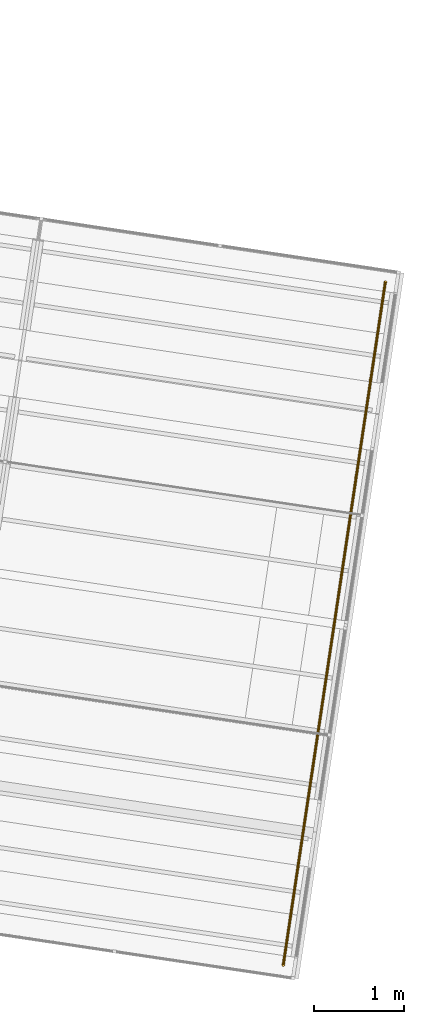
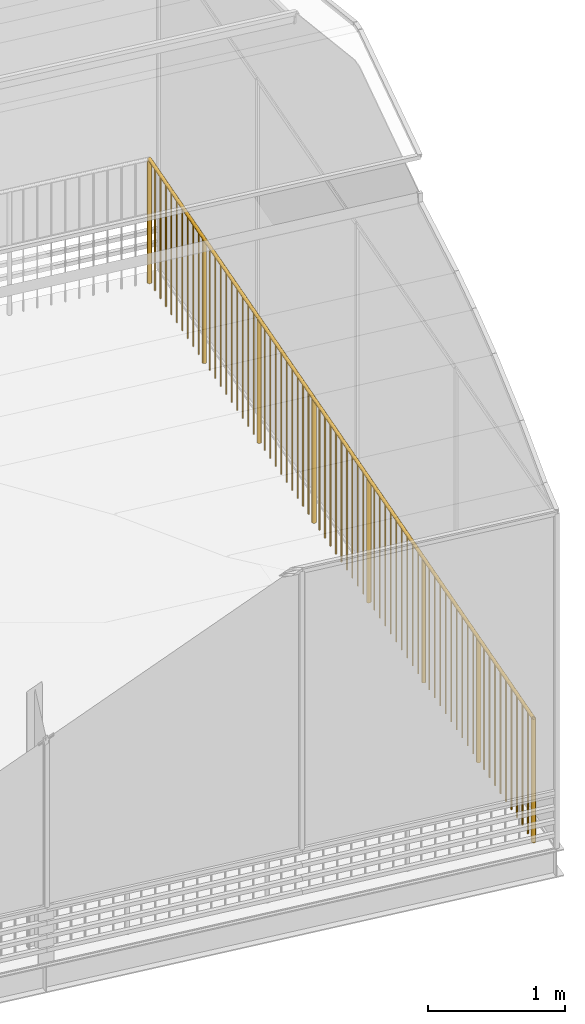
# One storey, part 33 of 34: 1 railing.
"""IFC4 building model written with IfcOpenShell, lengths in metres."""

from ifc_helpers import new_model, si_unit, direction, frame, origin_with_axes, place, context, subcontext, project, spatial, circle, extrude, material, element, save


model = new_model("IFC4")

# Units and contexts
model_context = context("Model", 3, precision=1e-05, world=origin_with_axes(), true_north=direction((0.0, 1.0)))
body_context = subcontext(model_context, "Body", "Model", "MODEL_VIEW")
ifc_project = project(units=[si_unit("AREAUNIT", "SQUARE_METRE"), si_unit("VOLUMEUNIT", "CUBIC_METRE"), si_unit("LENGTHUNIT", "METRE")], contexts=[model_context])

# Site, building, storey
site_placement = place(None, origin_with_axes())
site = spatial("IfcSite", under=ifc_project, at=site_placement, Name="Lares · Rua das Mercês · artigo 4771")
building_placement = place(site_placement, frame((15.0, 9.7, 14.65), z_axis=(0.0, 0.0, 1.0), x_axis=(0.989015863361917, -0.147809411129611, 0.0)))
building = spatial("IfcBuilding", under=site, at=building_placement, Name="Casa Sobreposta")
storey_placement = place(building_placement, frame((0.0, 0.0, 3.24), z_axis=(0.0, 0.0, 1.0), x_axis=(1.0, 0.0, 0.0)))
storey = spatial("IfcBuildingStorey", under=building, at=storey_placement, Name="01 · Jardim de inverno", Elevation=17.89)

# Railing
ifc_material = material(Name="Aço pintado / Stahl lackiert", Category="steel")
railing_placement = place(storey_placement, frame((0.0, 0.0, -3.24), z_axis=(0.0, 0.0, 1.0), x_axis=(1.0, 0.0, 0.0)))
element("IfcRailing", 1, at=railing_placement, inside=storey, material=ifc_material, Name="Guarda perimetral da estufa", PredefinedType="GUARDRAIL", context=body_context, shape_type="SweptSolid", body=[
    extrude(circle(Radius=0.015), frame((31.87, -1.37, 4.34), z_axis=(0.0, 1.0, 0.0), x_axis=(1.0, 0.0, 0.0)), (0.0, 0.0, 1.0), 7.64),
    extrude(circle(Radius=0.0175), frame((31.87, -1.37, 3.24), z_axis=(0.0, 0.0, 1.0), x_axis=(1.0, 0.0, 0.0)), (0.0, 0.0, 1.0), 1.1),
    extrude(circle(Radius=0.006), frame((31.87, -1.26085714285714, 3.24), z_axis=(0.0, 0.0, 1.0), x_axis=(1.0, 0.0, 0.0)), (0.0, 0.0, 1.0), 1.1),
    extrude(circle(Radius=0.006), frame((31.87, -1.15171428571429, 3.24), z_axis=(0.0, 0.0, 1.0), x_axis=(1.0, 0.0, 0.0)), (0.0, 0.0, 1.0), 1.1),
    extrude(circle(Radius=0.006), frame((31.87, -1.04257142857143, 3.24), z_axis=(0.0, 0.0, 1.0), x_axis=(1.0, 0.0, 0.0)), (0.0, 0.0, 1.0), 1.1),
    extrude(circle(Radius=0.006), frame((31.87, -0.933428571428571, 3.24), z_axis=(0.0, 0.0, 1.0), x_axis=(1.0, 0.0, 0.0)), (0.0, 0.0, 1.0), 1.1),
    extrude(circle(Radius=0.006), frame((31.87, -0.824285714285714, 3.24), z_axis=(0.0, 0.0, 1.0), x_axis=(1.0, 0.0, 0.0)), (0.0, 0.0, 1.0), 1.1),
    extrude(circle(Radius=0.006), frame((31.87, -0.715142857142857, 3.24), z_axis=(0.0, 0.0, 1.0), x_axis=(1.0, 0.0, 0.0)), (0.0, 0.0, 1.0), 1.1),
    extrude(circle(Radius=0.006), frame((31.87, -0.606, 3.24), z_axis=(0.0, 0.0, 1.0), x_axis=(1.0, 0.0, 0.0)), (0.0, 0.0, 1.0), 1.1),
    extrude(circle(Radius=0.006), frame((31.87, -0.496857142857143, 3.24), z_axis=(0.0, 0.0, 1.0), x_axis=(1.0, 0.0, 0.0)), (0.0, 0.0, 1.0), 1.1),
    extrude(circle(Radius=0.006), frame((31.87, -0.387714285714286, 3.24), z_axis=(0.0, 0.0, 1.0), x_axis=(1.0, 0.0, 0.0)), (0.0, 0.0, 1.0), 1.1),
    extrude(circle(Radius=0.0175), frame((31.87, -0.278571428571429, 3.24), z_axis=(0.0, 0.0, 1.0), x_axis=(1.0, 0.0, 0.0)), (0.0, 0.0, 1.0), 1.1),
    extrude(circle(Radius=0.006), frame((31.87, -0.169428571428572, 3.24), z_axis=(0.0, 0.0, 1.0), x_axis=(1.0, 0.0, 0.0)), (0.0, 0.0, 1.0), 1.1),
    extrude(circle(Radius=0.006), frame((31.87, -0.0602857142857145, 3.24), z_axis=(0.0, 0.0, 1.0), x_axis=(1.0, 0.0, 0.0)), (0.0, 0.0, 1.0), 1.1),
    extrude(circle(Radius=0.006), frame((31.87, 0.0488571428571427, 3.24), z_axis=(0.0, 0.0, 1.0), x_axis=(1.0, 0.0, 0.0)), (0.0, 0.0, 1.0), 1.1),
    extrude(circle(Radius=0.006), frame((31.87, 0.158, 3.24), z_axis=(0.0, 0.0, 1.0), x_axis=(1.0, 0.0, 0.0)), (0.0, 0.0, 1.0), 1.1),
    extrude(circle(Radius=0.006), frame((31.87, 0.267142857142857, 3.24), z_axis=(0.0, 0.0, 1.0), x_axis=(1.0, 0.0, 0.0)), (0.0, 0.0, 1.0), 1.1),
    extrude(circle(Radius=0.006), frame((31.87, 0.376285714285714, 3.24), z_axis=(0.0, 0.0, 1.0), x_axis=(1.0, 0.0, 0.0)), (0.0, 0.0, 1.0), 1.1),
    extrude(circle(Radius=0.006), frame((31.87, 0.485428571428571, 3.24), z_axis=(0.0, 0.0, 1.0), x_axis=(1.0, 0.0, 0.0)), (0.0, 0.0, 1.0), 1.1),
    extrude(circle(Radius=0.006), frame((31.87, 0.594571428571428, 3.24), z_axis=(0.0, 0.0, 1.0), x_axis=(1.0, 0.0, 0.0)), (0.0, 0.0, 1.0), 1.1),
    extrude(circle(Radius=0.006), frame((31.87, 0.703714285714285, 3.24), z_axis=(0.0, 0.0, 1.0), x_axis=(1.0, 0.0, 0.0)), (0.0, 0.0, 1.0), 1.1),
    extrude(circle(Radius=0.0175), frame((31.87, 0.812857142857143, 3.24), z_axis=(0.0, 0.0, 1.0), x_axis=(1.0, 0.0, 0.0)), (0.0, 0.0, 1.0), 1.1),
    extrude(circle(Radius=0.006), frame((31.87, 0.922, 3.24), z_axis=(0.0, 0.0, 1.0), x_axis=(1.0, 0.0, 0.0)), (0.0, 0.0, 1.0), 1.1),
    extrude(circle(Radius=0.006), frame((31.87, 1.03114285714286, 3.24), z_axis=(0.0, 0.0, 1.0), x_axis=(1.0, 0.0, 0.0)), (0.0, 0.0, 1.0), 1.1),
    extrude(circle(Radius=0.006), frame((31.87, 1.14028571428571, 3.24), z_axis=(0.0, 0.0, 1.0), x_axis=(1.0, 0.0, 0.0)), (0.0, 0.0, 1.0), 1.1),
    extrude(circle(Radius=0.006), frame((31.87, 1.24942857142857, 3.24), z_axis=(0.0, 0.0, 1.0), x_axis=(1.0, 0.0, 0.0)), (0.0, 0.0, 1.0), 1.1),
    extrude(circle(Radius=0.006), frame((31.87, 1.35857142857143, 3.24), z_axis=(0.0, 0.0, 1.0), x_axis=(1.0, 0.0, 0.0)), (0.0, 0.0, 1.0), 1.1),
    extrude(circle(Radius=0.006), frame((31.87, 1.46771428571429, 3.24), z_axis=(0.0, 0.0, 1.0), x_axis=(1.0, 0.0, 0.0)), (0.0, 0.0, 1.0), 1.1),
    extrude(circle(Radius=0.006), frame((31.87, 1.57685714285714, 3.24), z_axis=(0.0, 0.0, 1.0), x_axis=(1.0, 0.0, 0.0)), (0.0, 0.0, 1.0), 1.1),
    extrude(circle(Radius=0.006), frame((31.87, 1.686, 3.24), z_axis=(0.0, 0.0, 1.0), x_axis=(1.0, 0.0, 0.0)), (0.0, 0.0, 1.0), 1.1),
    extrude(circle(Radius=0.006), frame((31.87, 1.79514285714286, 3.24), z_axis=(0.0, 0.0, 1.0), x_axis=(1.0, 0.0, 0.0)), (0.0, 0.0, 1.0), 1.1),
    extrude(circle(Radius=0.0175), frame((31.87, 1.90428571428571, 3.24), z_axis=(0.0, 0.0, 1.0), x_axis=(1.0, 0.0, 0.0)), (0.0, 0.0, 1.0), 1.1),
    extrude(circle(Radius=0.006), frame((31.87, 2.01342857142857, 3.24), z_axis=(0.0, 0.0, 1.0), x_axis=(1.0, 0.0, 0.0)), (0.0, 0.0, 1.0), 1.1),
    extrude(circle(Radius=0.006), frame((31.87, 2.12257142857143, 3.24), z_axis=(0.0, 0.0, 1.0), x_axis=(1.0, 0.0, 0.0)), (0.0, 0.0, 1.0), 1.1),
    extrude(circle(Radius=0.006), frame((31.87, 2.23171428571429, 3.24), z_axis=(0.0, 0.0, 1.0), x_axis=(1.0, 0.0, 0.0)), (0.0, 0.0, 1.0), 1.1),
    extrude(circle(Radius=0.006), frame((31.87, 2.34085714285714, 3.24), z_axis=(0.0, 0.0, 1.0), x_axis=(1.0, 0.0, 0.0)), (0.0, 0.0, 1.0), 1.1),
    extrude(circle(Radius=0.006), frame((31.87, 2.45, 3.24), z_axis=(0.0, 0.0, 1.0), x_axis=(1.0, 0.0, 0.0)), (0.0, 0.0, 1.0), 1.1),
    extrude(circle(Radius=0.006), frame((31.87, 2.55914285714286, 3.24), z_axis=(0.0, 0.0, 1.0), x_axis=(1.0, 0.0, 0.0)), (0.0, 0.0, 1.0), 1.1),
    extrude(circle(Radius=0.006), frame((31.87, 2.66828571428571, 3.24), z_axis=(0.0, 0.0, 1.0), x_axis=(1.0, 0.0, 0.0)), (0.0, 0.0, 1.0), 1.1),
    extrude(circle(Radius=0.006), frame((31.87, 2.77742857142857, 3.24), z_axis=(0.0, 0.0, 1.0), x_axis=(1.0, 0.0, 0.0)), (0.0, 0.0, 1.0), 1.1),
    extrude(circle(Radius=0.006), frame((31.87, 2.88657142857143, 3.24), z_axis=(0.0, 0.0, 1.0), x_axis=(1.0, 0.0, 0.0)), (0.0, 0.0, 1.0), 1.1),
    extrude(circle(Radius=0.0175), frame((31.87, 2.99571428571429, 3.24), z_axis=(0.0, 0.0, 1.0), x_axis=(1.0, 0.0, 0.0)), (0.0, 0.0, 1.0), 1.1),
    extrude(circle(Radius=0.006), frame((31.87, 3.10485714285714, 3.24), z_axis=(0.0, 0.0, 1.0), x_axis=(1.0, 0.0, 0.0)), (0.0, 0.0, 1.0), 1.1),
    extrude(circle(Radius=0.006), frame((31.87, 3.214, 3.24), z_axis=(0.0, 0.0, 1.0), x_axis=(1.0, 0.0, 0.0)), (0.0, 0.0, 1.0), 1.1),
    extrude(circle(Radius=0.006), frame((31.87, 3.32314285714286, 3.24), z_axis=(0.0, 0.0, 1.0), x_axis=(1.0, 0.0, 0.0)), (0.0, 0.0, 1.0), 1.1),
    extrude(circle(Radius=0.006), frame((31.87, 3.43228571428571, 3.24), z_axis=(0.0, 0.0, 1.0), x_axis=(1.0, 0.0, 0.0)), (0.0, 0.0, 1.0), 1.1),
    extrude(circle(Radius=0.006), frame((31.87, 3.54142857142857, 3.24), z_axis=(0.0, 0.0, 1.0), x_axis=(1.0, 0.0, 0.0)), (0.0, 0.0, 1.0), 1.1),
    extrude(circle(Radius=0.006), frame((31.87, 3.65057142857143, 3.24), z_axis=(0.0, 0.0, 1.0), x_axis=(1.0, 0.0, 0.0)), (0.0, 0.0, 1.0), 1.1),
    extrude(circle(Radius=0.006), frame((31.87, 3.75971428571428, 3.24), z_axis=(0.0, 0.0, 1.0), x_axis=(1.0, 0.0, 0.0)), (0.0, 0.0, 1.0), 1.1),
    extrude(circle(Radius=0.006), frame((31.87, 3.86885714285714, 3.24), z_axis=(0.0, 0.0, 1.0), x_axis=(1.0, 0.0, 0.0)), (0.0, 0.0, 1.0), 1.1),
    extrude(circle(Radius=0.006), frame((31.87, 3.978, 3.24), z_axis=(0.0, 0.0, 1.0), x_axis=(1.0, 0.0, 0.0)), (0.0, 0.0, 1.0), 1.1),
    extrude(circle(Radius=0.0175), frame((31.87, 4.08714285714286, 3.24), z_axis=(0.0, 0.0, 1.0), x_axis=(1.0, 0.0, 0.0)), (0.0, 0.0, 1.0), 1.1),
    extrude(circle(Radius=0.006), frame((31.87, 4.19628571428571, 3.24), z_axis=(0.0, 0.0, 1.0), x_axis=(1.0, 0.0, 0.0)), (0.0, 0.0, 1.0), 1.1),
    extrude(circle(Radius=0.006), frame((31.87, 4.30542857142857, 3.24), z_axis=(0.0, 0.0, 1.0), x_axis=(1.0, 0.0, 0.0)), (0.0, 0.0, 1.0), 1.1),
    extrude(circle(Radius=0.006), frame((31.87, 4.41457142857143, 3.24), z_axis=(0.0, 0.0, 1.0), x_axis=(1.0, 0.0, 0.0)), (0.0, 0.0, 1.0), 1.1),
    extrude(circle(Radius=0.006), frame((31.87, 4.52371428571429, 3.24), z_axis=(0.0, 0.0, 1.0), x_axis=(1.0, 0.0, 0.0)), (0.0, 0.0, 1.0), 1.1),
    extrude(circle(Radius=0.006), frame((31.87, 4.63285714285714, 3.24), z_axis=(0.0, 0.0, 1.0), x_axis=(1.0, 0.0, 0.0)), (0.0, 0.0, 1.0), 1.1),
    extrude(circle(Radius=0.006), frame((31.87, 4.742, 3.24), z_axis=(0.0, 0.0, 1.0), x_axis=(1.0, 0.0, 0.0)), (0.0, 0.0, 1.0), 1.1),
    extrude(circle(Radius=0.006), frame((31.87, 4.85114285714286, 3.24), z_axis=(0.0, 0.0, 1.0), x_axis=(1.0, 0.0, 0.0)), (0.0, 0.0, 1.0), 1.1),
    extrude(circle(Radius=0.006), frame((31.87, 4.96028571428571, 3.24), z_axis=(0.0, 0.0, 1.0), x_axis=(1.0, 0.0, 0.0)), (0.0, 0.0, 1.0), 1.1),
    extrude(circle(Radius=0.006), frame((31.87, 5.06942857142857, 3.24), z_axis=(0.0, 0.0, 1.0), x_axis=(1.0, 0.0, 0.0)), (0.0, 0.0, 1.0), 1.1),
    extrude(circle(Radius=0.0175), frame((31.87, 5.17857142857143, 3.24), z_axis=(0.0, 0.0, 1.0), x_axis=(1.0, 0.0, 0.0)), (0.0, 0.0, 1.0), 1.1),
    extrude(circle(Radius=0.006), frame((31.87, 5.28771428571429, 3.24), z_axis=(0.0, 0.0, 1.0), x_axis=(1.0, 0.0, 0.0)), (0.0, 0.0, 1.0), 1.1),
    extrude(circle(Radius=0.006), frame((31.87, 5.39685714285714, 3.24), z_axis=(0.0, 0.0, 1.0), x_axis=(1.0, 0.0, 0.0)), (0.0, 0.0, 1.0), 1.1),
    extrude(circle(Radius=0.006), frame((31.87, 5.506, 3.24), z_axis=(0.0, 0.0, 1.0), x_axis=(1.0, 0.0, 0.0)), (0.0, 0.0, 1.0), 1.1),
    extrude(circle(Radius=0.006), frame((31.87, 5.61514285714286, 3.24), z_axis=(0.0, 0.0, 1.0), x_axis=(1.0, 0.0, 0.0)), (0.0, 0.0, 1.0), 1.1),
    extrude(circle(Radius=0.006), frame((31.87, 5.72428571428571, 3.24), z_axis=(0.0, 0.0, 1.0), x_axis=(1.0, 0.0, 0.0)), (0.0, 0.0, 1.0), 1.1),
    extrude(circle(Radius=0.006), frame((31.87, 5.83342857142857, 3.24), z_axis=(0.0, 0.0, 1.0), x_axis=(1.0, 0.0, 0.0)), (0.0, 0.0, 1.0), 1.1),
    extrude(circle(Radius=0.006), frame((31.87, 5.94257142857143, 3.24), z_axis=(0.0, 0.0, 1.0), x_axis=(1.0, 0.0, 0.0)), (0.0, 0.0, 1.0), 1.1),
    extrude(circle(Radius=0.006), frame((31.87, 6.05171428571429, 3.24), z_axis=(0.0, 0.0, 1.0), x_axis=(1.0, 0.0, 0.0)), (0.0, 0.0, 1.0), 1.1),
    extrude(circle(Radius=0.006), frame((31.87, 6.16085714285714, 3.24), z_axis=(0.0, 0.0, 1.0), x_axis=(1.0, 0.0, 0.0)), (0.0, 0.0, 1.0), 1.1),
    extrude(circle(Radius=0.0175), frame((31.87, 6.27, 3.24), z_axis=(0.0, 0.0, 1.0), x_axis=(1.0, 0.0, 0.0)), (0.0, 0.0, 1.0), 1.1),
])

save(model, "model.ifc")
